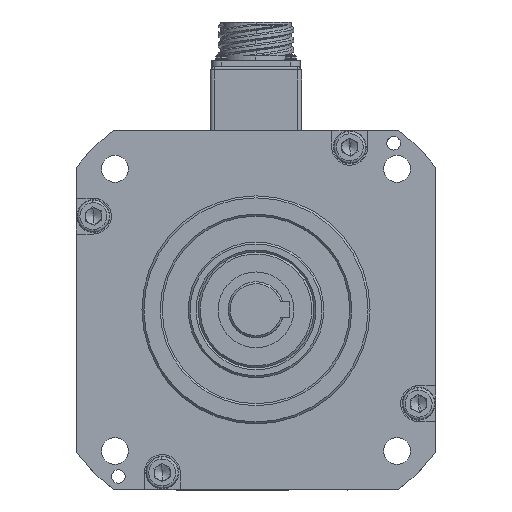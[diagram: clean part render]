
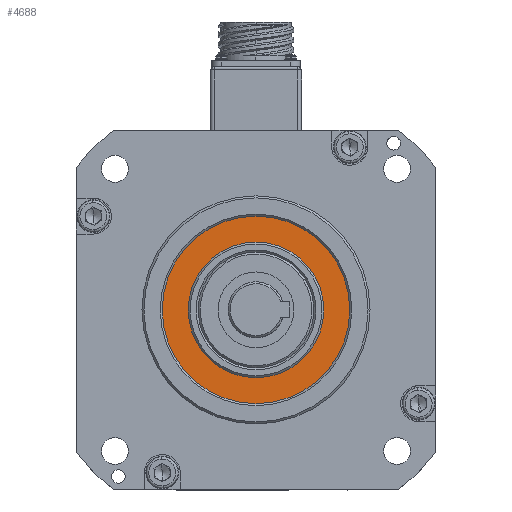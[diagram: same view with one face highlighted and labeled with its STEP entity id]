
A CAD part, top view. The second image highlights one B-rep face of the part: STEP entity #4688.
In plain terms, the highlighted planar face has unit normal (0, 0, 1).
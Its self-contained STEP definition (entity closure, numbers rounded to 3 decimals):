
#2218 = ORIENTED_EDGE ( 'NONE', *, *, #70525, .T. ) ;
#4688 = ADVANCED_FACE ( 'NONE', ( #91916, #89453 ), #87576, .T. ) ;
#7477 = CIRCLE ( 'NONE', #10581, 34. ) ;
#10581 = AXIS2_PLACEMENT_3D ( 'NONE', #63281, #16198, #71174 ) ;
#11492 = CARTESIAN_POINT ( 'NONE',  ( 89.463, 129.952, 153.358 ) ) ;
#14314 = EDGE_LOOP ( 'NONE', ( #2218, #94678 ) ) ;
#16198 = DIRECTION ( 'NONE',  ( 0., 0., 1. ) ) ;
#17054 = EDGE_CURVE ( 'NONE', #89974, #34709, #7477, .T. ) ;
#17243 = VERTEX_POINT ( 'NONE', #50140 ) ;
#18518 = AXIS2_PLACEMENT_3D ( 'NONE', #63913, #40513, #95417 ) ;
#19341 = DIRECTION ( 'NONE',  ( 0., -1., 0. ) ) ;
#26674 = VERTEX_POINT ( 'NONE', #44266 ) ;
#27316 = AXIS2_PLACEMENT_3D ( 'NONE', #28845, #83782, #36720 ) ;
#28845 = CARTESIAN_POINT ( 'NONE',  ( 89.463, 129.952, 153.358 ) ) ;
#30958 = ORIENTED_EDGE ( 'NONE', *, *, #17054, .F. ) ;
#31331 = CARTESIAN_POINT ( 'NONE',  ( 89.463, 129.952, 153.358 ) ) ;
#34709 = VERTEX_POINT ( 'NONE', #69730 ) ;
#36720 = DIRECTION ( 'NONE',  ( 0., -1., 0. ) ) ;
#39196 = DIRECTION ( 'NONE',  ( 0., -1., 0. ) ) ;
#40513 = DIRECTION ( 'NONE',  ( 0., 0., 1. ) ) ;
#43572 = CARTESIAN_POINT ( 'NONE',  ( 89.463, 163.952, 153.358 ) ) ;
#43960 = EDGE_CURVE ( 'NONE', #34709, #89974, #80516, .T. ) ;
#44266 = CARTESIAN_POINT ( 'NONE',  ( 89.463, 176.952, 153.358 ) ) ;
#49169 = ORIENTED_EDGE ( 'NONE', *, *, #43960, .F. ) ;
#50140 = CARTESIAN_POINT ( 'NONE',  ( 89.463, 82.952, 153.358 ) ) ;
#54624 = EDGE_CURVE ( 'NONE', #17243, #26674, #70192, .T. ) ;
#63281 = CARTESIAN_POINT ( 'NONE',  ( 89.463, 129.952, 153.358 ) ) ;
#63913 = CARTESIAN_POINT ( 'NONE',  ( 89.463, 129.952, 153.358 ) ) ;
#66434 = DIRECTION ( 'NONE',  ( 0., 0., 1. ) ) ;
#68710 = EDGE_LOOP ( 'NONE', ( #30958, #49169 ) ) ;
#69730 = CARTESIAN_POINT ( 'NONE',  ( 89.463, 95.952, 153.358 ) ) ;
#70192 = CIRCLE ( 'NONE', #79264, 47. ) ;
#70525 = EDGE_CURVE ( 'NONE', #26674, #17243, #93814, .T. ) ;
#71174 = DIRECTION ( 'NONE',  ( 0., -1., 0. ) ) ;
#79264 = AXIS2_PLACEMENT_3D ( 'NONE', #31331, #86232, #39196 ) ;
#80516 = CIRCLE ( 'NONE', #27316, 34. ) ;
#80766 = AXIS2_PLACEMENT_3D ( 'NONE', #11492, #66434, #19341 ) ;
#83782 = DIRECTION ( 'NONE',  ( 0., 0., 1. ) ) ;
#86232 = DIRECTION ( 'NONE',  ( 0., 0., 1. ) ) ;
#87576 = PLANE ( 'NONE',  #18518 ) ;
#89453 = FACE_OUTER_BOUND ( 'NONE', #14314, .T. ) ;
#89974 = VERTEX_POINT ( 'NONE', #43572 ) ;
#91916 = FACE_BOUND ( 'NONE', #68710, .T. ) ;
#93814 = CIRCLE ( 'NONE', #80766, 47. ) ;
#94678 = ORIENTED_EDGE ( 'NONE', *, *, #54624, .T. ) ;
#95417 = DIRECTION ( 'NONE',  ( 0., -1., 0. ) ) ;
